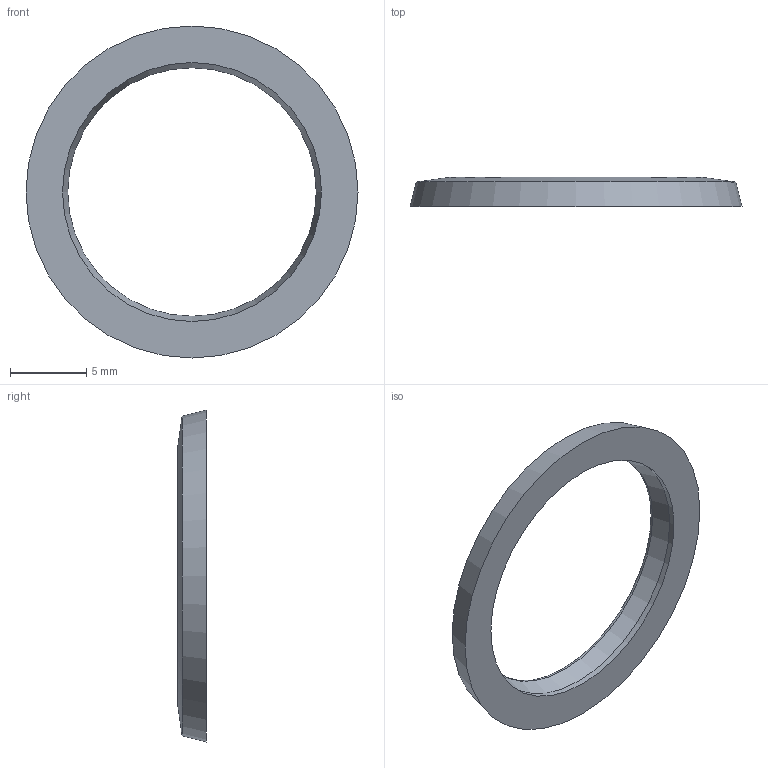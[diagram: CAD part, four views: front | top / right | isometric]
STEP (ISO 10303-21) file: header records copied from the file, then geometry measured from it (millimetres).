
FILE_DESCRIPTION( ( 'STEP AP203' ), '1' );
FILE_NAME( 'C:/Temp/Ganter_Step_05_03_2020/data/3_5/gn7600/Sealing ring GN 7600-21-17-2-HNBR-85.stp', '2020-03-12T13:43:51', ( 'License CC BY-ND 4.0' ), ( 'CADENAS' ), ' ', 'PARTsolutions', ' ' );
FILE_SCHEMA( ( 'CONFIG_CONTROL_DESIGN' ) );
Length unit declared in the file: millimetre
Products named in the file (1): _Sealing ring GN 7600-21-17-2-HNBR-85
Bounding box: 21.8 x 1.9 x 21.8 mm (x, y, z)
Volume: 243.6 mm3; surface area: 493.2 mm2
Topology: 1 solids, 1 shells, 6 faces, 11 edges, 6 vertices
Faces by surface type: cone 3, torus 1, cylinder 1, plane 1
Full cylindrical faces by diameter (mm): 17 x1
Entity records: 172 total; most frequent: DIRECTION 26, CARTESIAN_POINT 19, AXIS2_PLACEMENT_3D 13, EDGE_LOOP 12, ORIENTED_EDGE 12, FACE_OUTER_BOUND 8, ADVANCED_FACE 6, EDGE_CURVE 6
